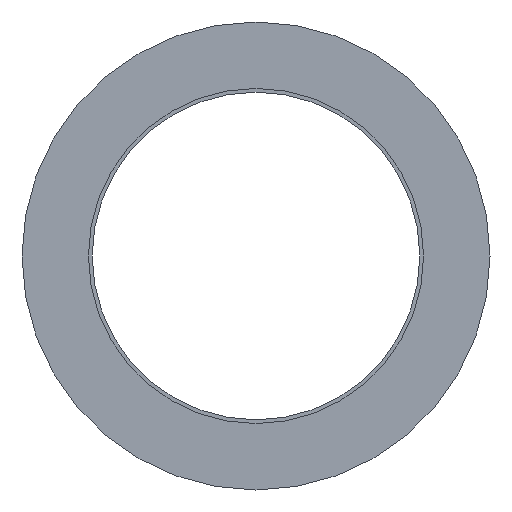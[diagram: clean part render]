
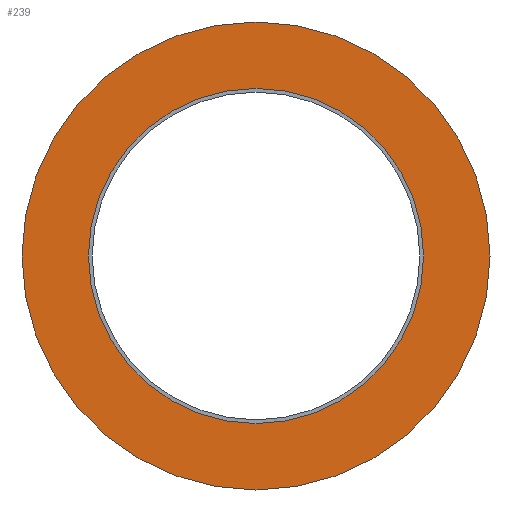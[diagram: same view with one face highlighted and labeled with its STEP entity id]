
A CAD part, left-side view. The second image highlights one B-rep face of the part: STEP entity #239.
In plain terms, the highlighted planar face has unit normal (-1, 0, 0).
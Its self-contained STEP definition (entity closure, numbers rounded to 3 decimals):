
#9 = CARTESIAN_POINT ( 'NONE',  ( -2.163, 0., 0. ) ) ;
#29 = CARTESIAN_POINT ( 'NONE',  ( -2.163, 0., 0. ) ) ;
#35 = ORIENTED_EDGE ( 'NONE', *, *, #225, .T. ) ;
#40 = DIRECTION ( 'NONE',  ( -1., 0., 0. ) ) ;
#42 = CIRCLE ( 'NONE', #320, 5. ) ;
#43 = DIRECTION ( 'NONE',  ( 0., 0., 1. ) ) ;
#45 = AXIS2_PLACEMENT_3D ( 'NONE', #273, #133, #43 ) ;
#57 = VERTEX_POINT ( 'NONE', #117 ) ;
#58 = DIRECTION ( 'NONE',  ( -1., 0., 0. ) ) ;
#59 = VERTEX_POINT ( 'NONE', #79 ) ;
#69 = ORIENTED_EDGE ( 'NONE', *, *, #274, .F. ) ;
#71 = EDGE_LOOP ( 'NONE', ( #69, #226 ) ) ;
#76 = CARTESIAN_POINT ( 'NONE',  ( -2.163, 0., 0. ) ) ;
#79 = CARTESIAN_POINT ( 'NONE',  ( -2.163, 0., 3.58 ) ) ;
#85 = EDGE_CURVE ( 'NONE', #59, #254, #93, .T. ) ;
#93 = CIRCLE ( 'NONE', #230, 3.58 ) ;
#101 = PLANE ( 'NONE',  #110 ) ;
#110 = AXIS2_PLACEMENT_3D ( 'NONE', #29, #323, #360 ) ;
#117 = CARTESIAN_POINT ( 'NONE',  ( -2.163, 0., -5. ) ) ;
#133 = DIRECTION ( 'NONE',  ( -1., 0., 0. ) ) ;
#138 = FACE_BOUND ( 'NONE', #71, .T. ) ;
#146 = FACE_OUTER_BOUND ( 'NONE', #179, .T. ) ;
#151 = CIRCLE ( 'NONE', #161, 5. ) ;
#161 = AXIS2_PLACEMENT_3D ( 'NONE', #76, #58, #250 ) ;
#179 = EDGE_LOOP ( 'NONE', ( #335, #35 ) ) ;
#183 = DIRECTION ( 'NONE',  ( 0., 0., 1. ) ) ;
#189 = CARTESIAN_POINT ( 'NONE',  ( -2.163, 0., 5. ) ) ;
#212 = VERTEX_POINT ( 'NONE', #189 ) ;
#225 = EDGE_CURVE ( 'NONE', #57, #212, #151, .T. ) ;
#226 = ORIENTED_EDGE ( 'NONE', *, *, #85, .F. ) ;
#230 = AXIS2_PLACEMENT_3D ( 'NONE', #9, #393, #270 ) ;
#239 = ADVANCED_FACE ( 'NONE', ( #138, #146 ), #101, .F. ) ;
#250 = DIRECTION ( 'NONE',  ( 0., 0., 1. ) ) ;
#254 = VERTEX_POINT ( 'NONE', #282 ) ;
#270 = DIRECTION ( 'NONE',  ( 0., 0., 1. ) ) ;
#273 = CARTESIAN_POINT ( 'NONE',  ( -2.163, 0., 0. ) ) ;
#274 = EDGE_CURVE ( 'NONE', #254, #59, #365, .T. ) ;
#282 = CARTESIAN_POINT ( 'NONE',  ( -2.163, 0., -3.58 ) ) ;
#320 = AXIS2_PLACEMENT_3D ( 'NONE', #372, #40, #183 ) ;
#323 = DIRECTION ( 'NONE',  ( 1., 0., 0. ) ) ;
#335 = ORIENTED_EDGE ( 'NONE', *, *, #345, .T. ) ;
#345 = EDGE_CURVE ( 'NONE', #212, #57, #42, .T. ) ;
#360 = DIRECTION ( 'NONE',  ( 0., 0., -1. ) ) ;
#365 = CIRCLE ( 'NONE', #45, 3.58 ) ;
#372 = CARTESIAN_POINT ( 'NONE',  ( -2.163, 0., 0. ) ) ;
#393 = DIRECTION ( 'NONE',  ( -1., 0., 0. ) ) ;
